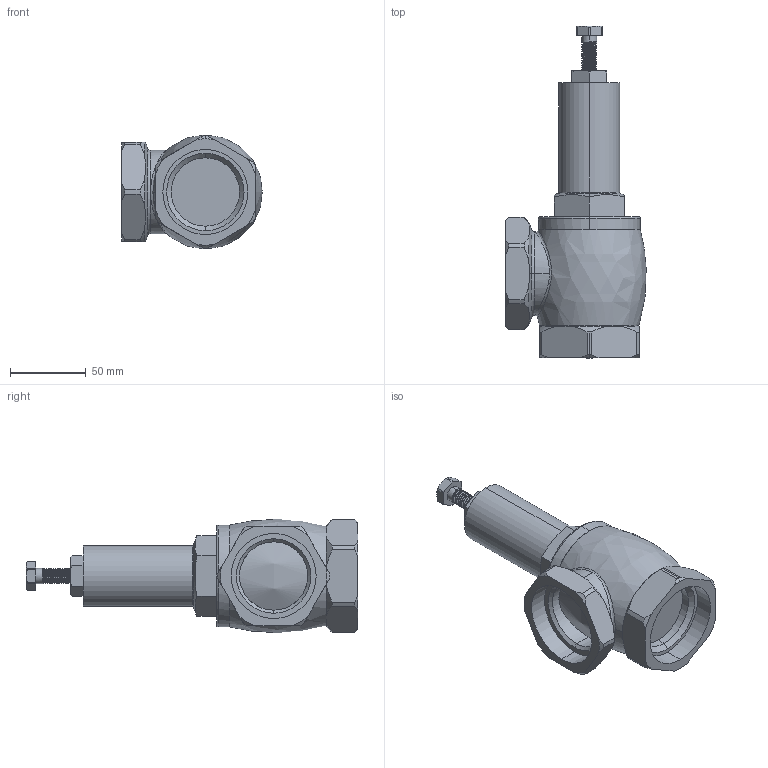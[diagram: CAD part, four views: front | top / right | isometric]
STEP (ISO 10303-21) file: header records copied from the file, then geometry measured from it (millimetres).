
FILE_DESCRIPTION (( 'STEP AP214' ), '1' );
FILE_NAME ('Êëàïàí ïðåäîõðàíèòåëüíûé TSV-50.STEP', '2026-10-08T06:34:23', ( '' ), ( '' ), 'SwSTEP 2.0', 'SolidWorks 2023', '' );
FILE_SCHEMA (( 'AUTOMOTIVE_DESIGN' ));
Length unit declared in the file: millimetre
Products named in the file (1): Клапан предохранительный TSV-50
Bounding box: 92.41 x 218.5 x 74.99 mm (x, y, z)
Volume: 477653.7 mm3; surface area: 56104.5 mm2
Topology: 1 solids, 1 shells, 173 faces, 459 edges, 296 vertices
Faces by surface type: cylinder 60, cone 50, plane 42, bspline 12, torus 9
Entity records: 11567 total; most frequent: CARTESIAN_POINT 7576, ORIENTED_EDGE 918, DIRECTION 748, EDGE_CURVE 459, AXIS2_PLACEMENT_3D 302, VERTEX_POINT 296, EDGE_LOOP 181, ADVANCED_FACE 173
